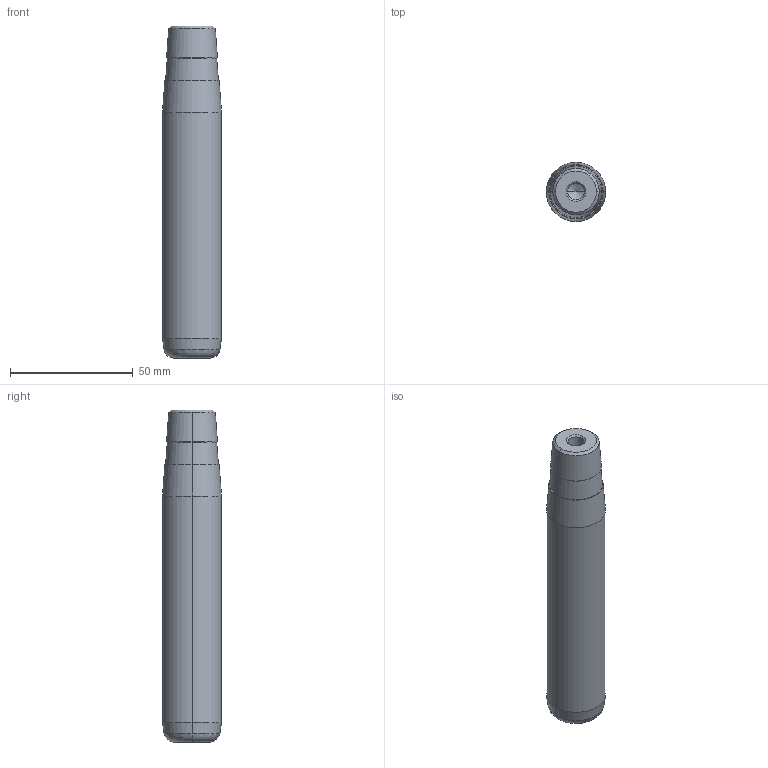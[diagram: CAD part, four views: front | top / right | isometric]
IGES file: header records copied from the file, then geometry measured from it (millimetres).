
Start section: START RECORD GO HERE.
Global section: file name: 722-24x112x135.igs; native system: DASSAULT SYSTEMES CATIA V5 R20 - www.3ds.com; preprocessor: CATIA Version 5 Release 20 ; author: Utente; organization: NB04-ASUS; date: 20210109.093834; units: millimetre
Bounding box: 24 x 24 x 135 mm (x, y, z)
Surface area: 11503.2 mm2 (no closed solid volume)
Topology: 0 solids, 0 shells, 32 faces, 128 edges, 124 vertices
Faces by surface type: revolution 30, plane 2
